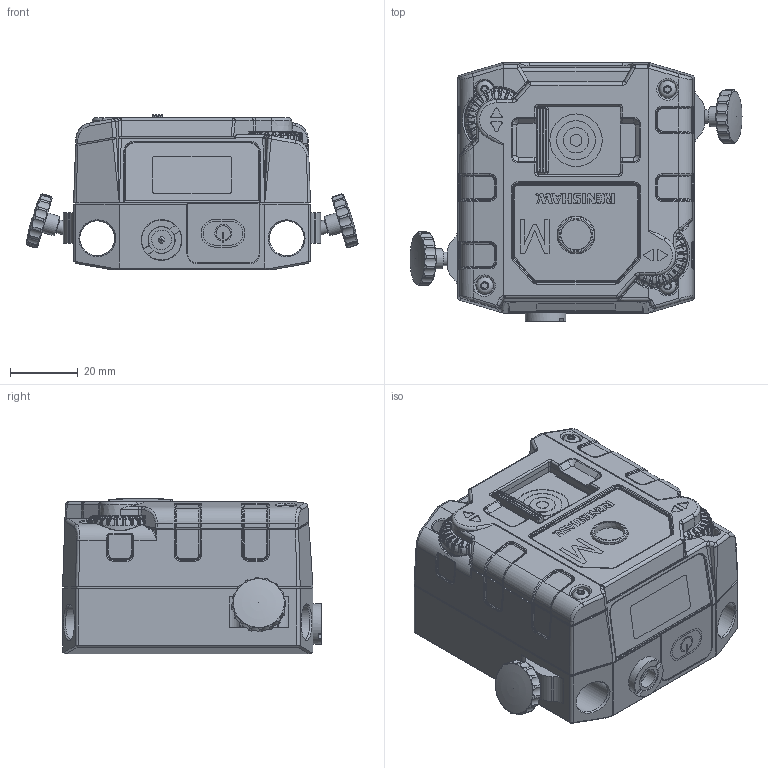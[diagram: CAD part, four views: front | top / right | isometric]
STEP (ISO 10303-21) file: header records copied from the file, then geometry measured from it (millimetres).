
FILE_DESCRIPTION(/* description */ ('CAx-IF Rec.Pracs.---Representation and Presentation of Product Manufacturing Information (PMI)---4.0---2014-10-13','CAx-IF Rec.Pracs.---3D Tessellated Geometry---0.4---2014-09-14','2;1'),/* implementation_level */ '2;1');
FILE_NAME(/* name */ 'M-9971-0201-01-B_XK20 M UNIT _altrep_M-9971-0201-01-B-alt1_',/* time_stamp */ '2025-08-29T08:16:34+01:00',/* author */ (''),/* organization */ (''),/* preprocessor_version */ 'ST-DEVELOPER v20',/* originating_system */ 'SIEMENS PLM Software NX2312.8103',/* authorisation */ $);
FILE_SCHEMA (('AP242_MANAGED_MODEL_BASED_3D_ENGINEERING_MIM_LF { 1 0 10303 442 3 1 4 }'));
Products named in the file (1): M-9971-0201-01-B_XK20 M UNIT _altrep_M-9971-0201-01-B-alt1_
Bounding box: 98.11 x 76.5 x 45.95 mm (x, y, z)
Volume: 200659.6 mm3; surface area: 29806.3 mm2
Topology: 1 solids, 34 shells, 2396 faces, 6050 edges, 3666 vertices
Faces by surface type: plane 761, cylinder 728, bspline 606, torus 161, cone 128, sphere 12
Full cylindrical faces by diameter (mm): 3.5 x1, 3.8 x6, 4 x2, 5 x4, 5.842 x1, 6 x2, 7.5 x1, 10.3 x2, 11.2 x1, 11.5 x1, 12 x1, 15.5 x1
Entity records: 100619 total; most frequent: CARTESIAN_POINT 32060, ORIENTED_EDGE 11884, DIRECTION 8942, EDGE_CURVE 5942, VERTEX_POINT 3668, AXIS2_PLACEMENT_3D 3389, EDGE_LOOP 2458, FACE_BOUND 2458
